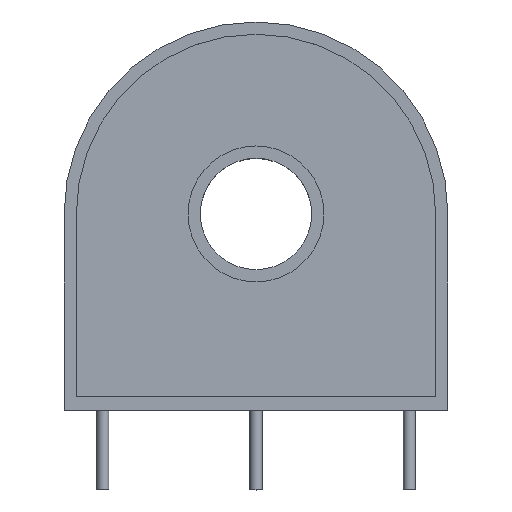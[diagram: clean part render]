
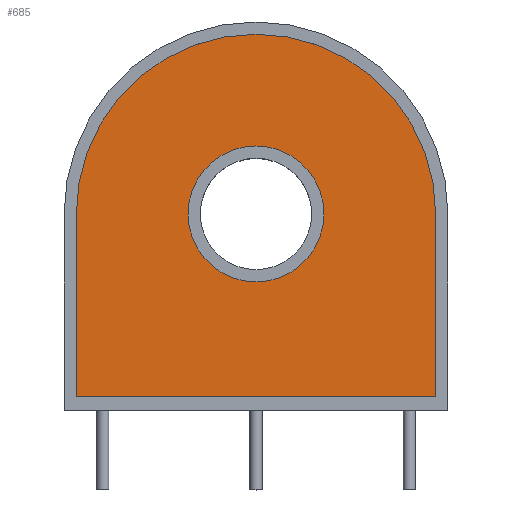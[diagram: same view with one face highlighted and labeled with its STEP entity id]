
A CAD part, top view. The second image highlights one B-rep face of the part: STEP entity #685.
In plain terms, the highlighted planar face has unit normal (0, 0, 1).
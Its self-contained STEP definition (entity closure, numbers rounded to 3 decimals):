
#35 = ORIENTED_EDGE ( 'NONE', *, *, #556, .T. ) ;
#37 = CIRCLE ( 'NONE', #670, 5.55 ) ;
#38 = ORIENTED_EDGE ( 'NONE', *, *, #395, .T. ) ;
#66 = FACE_OUTER_BOUND ( 'NONE', #183, .T. ) ;
#73 = EDGE_CURVE ( 'NONE', #560, #667, #198, .T. ) ;
#87 = VERTEX_POINT ( 'NONE', #717 ) ;
#88 = VERTEX_POINT ( 'NONE', #596 ) ;
#106 = CARTESIAN_POINT ( 'NONE',  ( -14.675, -14.925, 13.9 ) ) ;
#111 = PLANE ( 'NONE',  #648 ) ;
#121 = CIRCLE ( 'NONE', #714, 14.675 ) ;
#123 = DIRECTION ( 'NONE',  ( 1., 0., 0. ) ) ;
#148 = DIRECTION ( 'NONE',  ( 0., 1., 0. ) ) ;
#160 = CARTESIAN_POINT ( 'NONE',  ( -14.675, 0., 13.9 ) ) ;
#161 = EDGE_CURVE ( 'NONE', #667, #560, #37, .T. ) ;
#170 = VERTEX_POINT ( 'NONE', #449 ) ;
#183 = EDGE_LOOP ( 'NONE', ( #457, #35, #38, #413 ) ) ;
#196 = EDGE_CURVE ( 'NONE', #170, #87, #121, .T. ) ;
#198 = CIRCLE ( 'NONE', #244, 5.55 ) ;
#241 = DIRECTION ( 'NONE',  ( 0., 0., 1. ) ) ;
#244 = AXIS2_PLACEMENT_3D ( 'NONE', #603, #241, #293 ) ;
#293 = DIRECTION ( 'NONE',  ( 1., 0., 0. ) ) ;
#330 = EDGE_CURVE ( 'NONE', #88, #170, #479, .T. ) ;
#341 = VECTOR ( 'NONE', #752, 1000. ) ;
#357 = CARTESIAN_POINT ( 'NONE',  ( 0., 0., 13.9 ) ) ;
#373 = LINE ( 'NONE', #106, #644 ) ;
#391 = ORIENTED_EDGE ( 'NONE', *, *, #161, .F. ) ;
#395 = EDGE_CURVE ( 'NONE', #768, #88, #373, .T. ) ;
#413 = ORIENTED_EDGE ( 'NONE', *, *, #330, .T. ) ;
#429 = CARTESIAN_POINT ( 'NONE',  ( -14.675, -14.925, 13.9 ) ) ;
#446 = CARTESIAN_POINT ( 'NONE',  ( 0., 0., 13.9 ) ) ;
#447 = ORIENTED_EDGE ( 'NONE', *, *, #73, .F. ) ;
#449 = CARTESIAN_POINT ( 'NONE',  ( 14.675, 0., 13.9 ) ) ;
#456 = VECTOR ( 'NONE', #148, 1000. ) ;
#457 = ORIENTED_EDGE ( 'NONE', *, *, #196, .T. ) ;
#479 = LINE ( 'NONE', #632, #456 ) ;
#492 = DIRECTION ( 'NONE',  ( 1., 0., 0. ) ) ;
#507 = LINE ( 'NONE', #160, #341 ) ;
#540 = DIRECTION ( 'NONE',  ( 1., 0., 0. ) ) ;
#553 = DIRECTION ( 'NONE',  ( 0., 0., 1. ) ) ;
#556 = EDGE_CURVE ( 'NONE', #87, #768, #507, .T. ) ;
#560 = VERTEX_POINT ( 'NONE', #702 ) ;
#575 = EDGE_LOOP ( 'NONE', ( #447, #391 ) ) ;
#596 = CARTESIAN_POINT ( 'NONE',  ( 14.675, -14.925, 13.9 ) ) ;
#603 = CARTESIAN_POINT ( 'NONE',  ( 0., 0., 13.9 ) ) ;
#609 = DIRECTION ( 'NONE',  ( 1., 0., 0. ) ) ;
#632 = CARTESIAN_POINT ( 'NONE',  ( 14.675, 0., 13.9 ) ) ;
#644 = VECTOR ( 'NONE', #540, 1000. ) ;
#648 = AXIS2_PLACEMENT_3D ( 'NONE', #357, #763, #492 ) ;
#655 = CARTESIAN_POINT ( 'NONE',  ( -5.55, 0., 13.9 ) ) ;
#664 = CARTESIAN_POINT ( 'NONE',  ( 0., 0., 13.9 ) ) ;
#667 = VERTEX_POINT ( 'NONE', #655 ) ;
#670 = AXIS2_PLACEMENT_3D ( 'NONE', #446, #553, #123 ) ;
#685 = ADVANCED_FACE ( 'NONE', ( #730, #66 ), #111, .T. ) ;
#702 = CARTESIAN_POINT ( 'NONE',  ( 5.55, 0., 13.9 ) ) ;
#714 = AXIS2_PLACEMENT_3D ( 'NONE', #664, #720, #609 ) ;
#717 = CARTESIAN_POINT ( 'NONE',  ( -14.675, 0., 13.9 ) ) ;
#720 = DIRECTION ( 'NONE',  ( 0., 0., 1. ) ) ;
#730 = FACE_BOUND ( 'NONE', #575, .T. ) ;
#752 = DIRECTION ( 'NONE',  ( 0., -1., 0. ) ) ;
#763 = DIRECTION ( 'NONE',  ( 0., 0., 1. ) ) ;
#768 = VERTEX_POINT ( 'NONE', #429 ) ;
